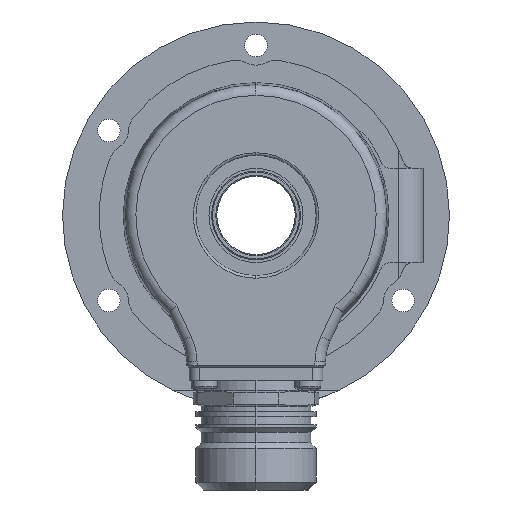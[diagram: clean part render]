
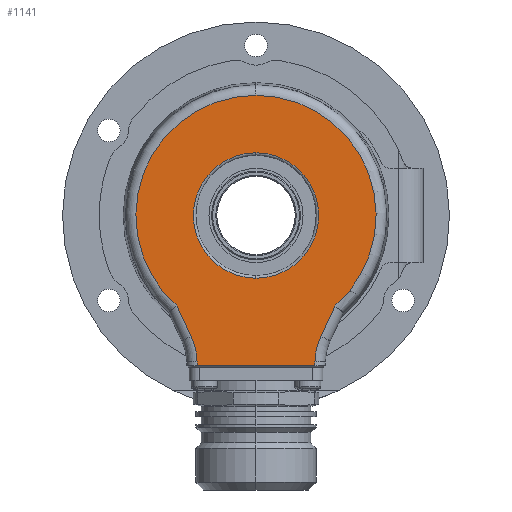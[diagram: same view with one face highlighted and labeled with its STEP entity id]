
A CAD part, left-side view. The second image highlights one B-rep face of the part: STEP entity #1141.
In plain terms, the highlighted planar face has unit normal (-1, 0, 0).
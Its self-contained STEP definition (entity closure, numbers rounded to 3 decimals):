
#668 = VERTEX_POINT ( 'NONE', #6465 ) ;
#669 = EDGE_CURVE ( 'NONE', #668, #916, #6464, .T. ) ;
#897 = EDGE_CURVE ( 'NONE', #898, #899, #7556, .T. ) ;
#898 = VERTEX_POINT ( 'NONE', #7552 ) ;
#899 = VERTEX_POINT ( 'NONE', #7551 ) ;
#916 = VERTEX_POINT ( 'NONE', #7453 ) ;
#1101 = VERTEX_POINT ( 'NONE', #8105 ) ;
#1127 = EDGE_CURVE ( 'NONE', #1268, #1256, #8009, .T. ) ;
#1133 = ORIENTED_EDGE ( 'NONE', *, *, #1241, .T. ) ;
#1134 = EDGE_LOOP ( 'NONE', ( #1149, #1206, #1209, #1215, #1220, #1210, #1211, #1213, #1197 ) ) ;
#1135 = EDGE_CURVE ( 'NONE', #1153, #1262, #8359, .T. ) ;
#1141 = ADVANCED_FACE ( 'NONE', ( #8381, #8380 ), #8338, .F. ) ;
#1142 = ORIENTED_EDGE ( 'NONE', *, *, #669, .T. ) ;
#1149 = ORIENTED_EDGE ( 'NONE', *, *, #1221, .T. ) ;
#1153 = VERTEX_POINT ( 'NONE', #8273 ) ;
#1195 = VERTEX_POINT ( 'NONE', #8214 ) ;
#1196 = VERTEX_POINT ( 'NONE', #8208 ) ;
#1197 = ORIENTED_EDGE ( 'NONE', *, *, #1127, .T. ) ;
#1206 = ORIENTED_EDGE ( 'NONE', *, *, #1207, .T. ) ;
#1207 = EDGE_CURVE ( 'NONE', #1196, #1195, #8603, .T. ) ;
#1209 = ORIENTED_EDGE ( 'NONE', *, *, #1214, .T. ) ;
#1210 = ORIENTED_EDGE ( 'NONE', *, *, #1266, .T. ) ;
#1211 = ORIENTED_EDGE ( 'NONE', *, *, #897, .T. ) ;
#1213 = ORIENTED_EDGE ( 'NONE', *, *, #1270, .T. ) ;
#1214 = EDGE_CURVE ( 'NONE', #1195, #1153, #8598, .T. ) ;
#1215 = ORIENTED_EDGE ( 'NONE', *, *, #1135, .T. ) ;
#1220 = ORIENTED_EDGE ( 'NONE', *, *, #1278, .T. ) ;
#1221 = EDGE_CURVE ( 'NONE', #1256, #1196, #8580, .T. ) ;
#1227 = EDGE_LOOP ( 'NONE', ( #1142, #1133 ) ) ;
#1241 = EDGE_CURVE ( 'NONE', #916, #668, #8440, .T. ) ;
#1256 = VERTEX_POINT ( 'NONE', #8451 ) ;
#1262 = VERTEX_POINT ( 'NONE', #8483 ) ;
#1266 = EDGE_CURVE ( 'NONE', #1101, #898, #8517, .T. ) ;
#1268 = VERTEX_POINT ( 'NONE', #8512 ) ;
#1270 = EDGE_CURVE ( 'NONE', #899, #1268, #8511, .T. ) ;
#1278 = EDGE_CURVE ( 'NONE', #1262, #1101, #8642, .T. ) ;
#6460 = DIRECTION ( 'NONE',  ( 0., 0., 1. ) ) ;
#6461 = DIRECTION ( 'NONE',  ( 1., 0., 0. ) ) ;
#6462 = CARTESIAN_POINT ( 'NONE',  ( -21., 0., 0. ) ) ;
#6463 = AXIS2_PLACEMENT_3D ( 'NONE', #6462, #6461, #6460 ) ;
#6464 = CIRCLE ( 'NONE', #6463, 12. ) ;
#6465 = CARTESIAN_POINT ( 'NONE',  ( -21., 0., 12. ) ) ;
#7442 = CARTESIAN_POINT ( 'NONE',  ( -21., 0., 0. ) ) ;
#7453 = CARTESIAN_POINT ( 'NONE',  ( -21., 0., -12. ) ) ;
#7551 = CARTESIAN_POINT ( 'NONE',  ( -21., 15.091, -17.32 ) ) ;
#7552 = CARTESIAN_POINT ( 'NONE',  ( -21., 0., 22.972 ) ) ;
#7553 = DIRECTION ( 'NONE',  ( 0., 0., 1. ) ) ;
#7554 = DIRECTION ( 'NONE',  ( -1., 0., 0. ) ) ;
#7555 = AXIS2_PLACEMENT_3D ( 'NONE', #7442, #7554, #7553 ) ;
#7556 = CIRCLE ( 'NONE', #7555, 22.972 ) ;
#8005 = DIRECTION ( 'NONE',  ( 0., 0., 1. ) ) ;
#8006 = DIRECTION ( 'NONE',  ( 1., 0., 0. ) ) ;
#8007 = CARTESIAN_POINT ( 'NONE',  ( -21., 23.266, -28.183 ) ) ;
#8008 = AXIS2_PLACEMENT_3D ( 'NONE', #8007, #8006, #8005 ) ;
#8009 = CIRCLE ( 'NONE', #8008, 12. ) ;
#8105 = CARTESIAN_POINT ( 'NONE',  ( -21., -15.091, -17.32 ) ) ;
#8208 = CARTESIAN_POINT ( 'NONE',  ( -21., 11.255, -28.695 ) ) ;
#8214 = CARTESIAN_POINT ( 'NONE',  ( -21., -11.255, -28.695 ) ) ;
#8273 = CARTESIAN_POINT ( 'NONE',  ( -21., -11.268, -27.974 ) ) ;
#8333 = DIRECTION ( 'NONE',  ( 0., 0., 1. ) ) ;
#8334 = DIRECTION ( 'NONE',  ( 1., 0., 0. ) ) ;
#8335 = CARTESIAN_POINT ( 'NONE',  ( -21., 0., 0. ) ) ;
#8336 = AXIS2_PLACEMENT_3D ( 'NONE', #8335, #8334, #8333 ) ;
#8338 = PLANE ( 'NONE',  #8336 ) ;
#8355 = DIRECTION ( 'NONE',  ( 0., 0., 1. ) ) ;
#8356 = DIRECTION ( 'NONE',  ( 1., 0., 0. ) ) ;
#8357 = CARTESIAN_POINT ( 'NONE',  ( -21., -23.266, -28.183 ) ) ;
#8358 = AXIS2_PLACEMENT_3D ( 'NONE', #8357, #8356, #8355 ) ;
#8359 = CIRCLE ( 'NONE', #8358, 12. ) ;
#8380 = FACE_OUTER_BOUND ( 'NONE', #1134, .T. ) ;
#8381 = FACE_BOUND ( 'NONE', #1227, .T. ) ;
#8436 = DIRECTION ( 'NONE',  ( 0., 0., 1. ) ) ;
#8437 = DIRECTION ( 'NONE',  ( 1., 0., 0. ) ) ;
#8438 = CARTESIAN_POINT ( 'NONE',  ( -21., 0., 0. ) ) ;
#8439 = AXIS2_PLACEMENT_3D ( 'NONE', #8438, #8437, #8436 ) ;
#8440 = CIRCLE ( 'NONE', #8439, 12. ) ;
#8451 = CARTESIAN_POINT ( 'NONE',  ( -21., 11.268, -27.974 ) ) ;
#8483 = CARTESIAN_POINT ( 'NONE',  ( -21., -12.39, -23.112 ) ) ;
#8510 = CARTESIAN_POINT ( 'NONE',  ( -21., 12.39, -23.112 ) ) ;
#8511 = LINE ( 'NONE', #8510, #8617 ) ;
#8512 = CARTESIAN_POINT ( 'NONE',  ( -21., 12.39, -23.112 ) ) ;
#8513 = DIRECTION ( 'NONE',  ( 0., 0., 1. ) ) ;
#8514 = DIRECTION ( 'NONE',  ( -1., 0., 0. ) ) ;
#8515 = CARTESIAN_POINT ( 'NONE',  ( -21., 0., 0. ) ) ;
#8516 = AXIS2_PLACEMENT_3D ( 'NONE', #8515, #8514, #8513 ) ;
#8517 = CIRCLE ( 'NONE', #8516, 22.972 ) ;
#8572 = DIRECTION ( 'NONE',  ( 0., -0.017, -1. ) ) ;
#8573 = VECTOR ( 'NONE', #8572, 1000. ) ;
#8574 = CARTESIAN_POINT ( 'NONE',  ( -21., 11.752, -0.205 ) ) ;
#8580 = LINE ( 'NONE', #8574, #8573 ) ;
#8595 = DIRECTION ( 'NONE',  ( 0., -0.017, 1. ) ) ;
#8596 = VECTOR ( 'NONE', #8595, 1000. ) ;
#8597 = CARTESIAN_POINT ( 'NONE',  ( -21., -11.752, -0.205 ) ) ;
#8598 = LINE ( 'NONE', #8597, #8596 ) ;
#8600 = DIRECTION ( 'NONE',  ( 0., -1., 0. ) ) ;
#8601 = VECTOR ( 'NONE', #8600, 1000. ) ;
#8602 = CARTESIAN_POINT ( 'NONE',  ( -21., -11.25, -28.695 ) ) ;
#8603 = LINE ( 'NONE', #8602, #8601 ) ;
#8617 = VECTOR ( 'NONE', #8678, 1000. ) ;
#8631 = DIRECTION ( 'NONE',  ( 0., -0.423, 0.906 ) ) ;
#8632 = VECTOR ( 'NONE', #8631, 1000. ) ;
#8633 = CARTESIAN_POINT ( 'NONE',  ( -21., -14.953, -17.615 ) ) ;
#8642 = LINE ( 'NONE', #8633, #8632 ) ;
#8678 = DIRECTION ( 'NONE',  ( 0., -0.423, -0.906 ) ) ;
